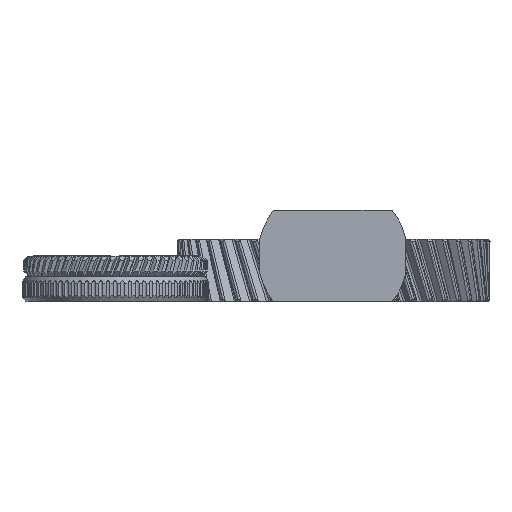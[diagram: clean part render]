
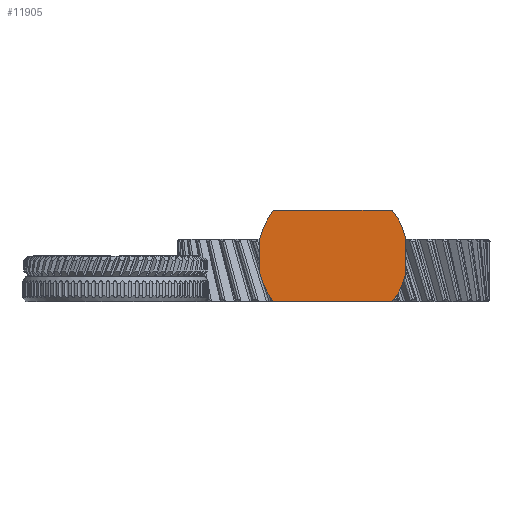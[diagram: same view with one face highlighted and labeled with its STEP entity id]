
A CAD part, front view. The second image highlights one B-rep face of the part: STEP entity #11905.
In plain terms, the highlighted planar face has unit normal (0, -1, 0) as drawn and (0, 1, 0) by its records, which use the part's own axes.
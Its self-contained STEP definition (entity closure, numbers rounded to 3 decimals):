
#356 = PLANE ( 'NONE',  #45575 ) ;
#2640 = CIRCLE ( 'NONE', #3563, 36. ) ;
#2894 = CARTESIAN_POINT ( 'NONE',  ( -35., 0., -44. ) ) ;
#3563 = AXIS2_PLACEMENT_3D ( 'NONE', #6148, #40393, #49240 ) ;
#3675 = VECTOR ( 'NONE', #14330, 1000. ) ;
#4471 = ORIENTED_EDGE ( 'NONE', *, *, #34214, .T. ) ;
#5156 = CARTESIAN_POINT ( 'NONE',  ( -35., 0., -44. ) ) ;
#5206 = EDGE_CURVE ( 'NONE', #10323, #51469, #28324, .T. ) ;
#6143 = DIRECTION ( 'NONE',  ( -1., 0., 0. ) ) ;
#6148 = CARTESIAN_POINT ( 'NONE',  ( 0., 0., -22. ) ) ;
#6778 = DIRECTION ( 'NONE',  ( 0., 1., 0. ) ) ;
#8582 = FACE_OUTER_BOUND ( 'NONE', #45183, .T. ) ;
#8700 = EDGE_CURVE ( 'NONE', #52037, #20500, #15087, .T. ) ;
#8755 = CARTESIAN_POINT ( 'NONE',  ( 35., 0., -13.574 ) ) ;
#10164 = DIRECTION ( 'NONE',  ( 0., 0., 1. ) ) ;
#10323 = VERTEX_POINT ( 'NONE', #37087 ) ;
#10745 = CIRCLE ( 'NONE', #41956, 36. ) ;
#11663 = LINE ( 'NONE', #2894, #54291 ) ;
#11905 = ADVANCED_FACE ( 'NONE', ( #8582 ), #356, .T. ) ;
#12224 = AXIS2_PLACEMENT_3D ( 'NONE', #32570, #37256, #29450 ) ;
#12419 = CARTESIAN_POINT ( 'NONE',  ( 28.496, 0., 0. ) ) ;
#12461 = VERTEX_POINT ( 'NONE', #32032 ) ;
#14330 = DIRECTION ( 'NONE',  ( 0., 0., 1. ) ) ;
#14341 = VECTOR ( 'NONE', #6143, 1000. ) ;
#15087 = CIRCLE ( 'NONE', #25842, 36. ) ;
#16171 = CARTESIAN_POINT ( 'NONE',  ( 0., 0., -22. ) ) ;
#16640 = EDGE_CURVE ( 'NONE', #22003, #20500, #44527, .T. ) ;
#18445 = ORIENTED_EDGE ( 'NONE', *, *, #16640, .F. ) ;
#18466 = LINE ( 'NONE', #35531, #3675 ) ;
#18584 = LINE ( 'NONE', #53134, #25797 ) ;
#18597 = CARTESIAN_POINT ( 'NONE',  ( -35., 0., 0. ) ) ;
#19013 = EDGE_CURVE ( 'NONE', #12461, #26813, #10745, .T. ) ;
#20176 = CARTESIAN_POINT ( 'NONE',  ( -35., 0., -13.574 ) ) ;
#20500 = VERTEX_POINT ( 'NONE', #22161 ) ;
#20826 = ORIENTED_EDGE ( 'NONE', *, *, #19013, .T. ) ;
#21680 = CARTESIAN_POINT ( 'NONE',  ( -35., 0., -30.426 ) ) ;
#22003 = VERTEX_POINT ( 'NONE', #12419 ) ;
#22161 = CARTESIAN_POINT ( 'NONE',  ( -28.496, 0., 0. ) ) ;
#25797 = VECTOR ( 'NONE', #10164, 1000. ) ;
#25842 = AXIS2_PLACEMENT_3D ( 'NONE', #52665, #6778, #45951 ) ;
#26813 = VERTEX_POINT ( 'NONE', #28325 ) ;
#28324 = CIRCLE ( 'NONE', #12224, 36. ) ;
#28325 = CARTESIAN_POINT ( 'NONE',  ( 28.496, 0., -44. ) ) ;
#29450 = DIRECTION ( 'NONE',  ( 0., 0., 1. ) ) ;
#32032 = CARTESIAN_POINT ( 'NONE',  ( 35., 0., -30.426 ) ) ;
#32570 = CARTESIAN_POINT ( 'NONE',  ( 0., 0., -22. ) ) ;
#33860 = ORIENTED_EDGE ( 'NONE', *, *, #8700, .T. ) ;
#34214 = EDGE_CURVE ( 'NONE', #51469, #52037, #18584, .T. ) ;
#35193 = DIRECTION ( 'NONE',  ( 0., 0., 1. ) ) ;
#35531 = CARTESIAN_POINT ( 'NONE',  ( 35., 0., -44. ) ) ;
#37087 = CARTESIAN_POINT ( 'NONE',  ( -28.496, 0., -44. ) ) ;
#37256 = DIRECTION ( 'NONE',  ( 0., 1., 0. ) ) ;
#38494 = DIRECTION ( 'NONE',  ( 0., 1., 0. ) ) ;
#39261 = EDGE_CURVE ( 'NONE', #12461, #47384, #18466, .T. ) ;
#40393 = DIRECTION ( 'NONE',  ( 0., 1., 0. ) ) ;
#41252 = ORIENTED_EDGE ( 'NONE', *, *, #39261, .F. ) ;
#41287 = DIRECTION ( 'NONE',  ( -1., 0., 0. ) ) ;
#41956 = AXIS2_PLACEMENT_3D ( 'NONE', #16171, #38494, #42933 ) ;
#42933 = DIRECTION ( 'NONE',  ( 0., 0., 1. ) ) ;
#44527 = LINE ( 'NONE', #18597, #14341 ) ;
#44820 = EDGE_CURVE ( 'NONE', #26813, #10323, #11663, .T. ) ;
#45183 = EDGE_LOOP ( 'NONE', ( #18445, #54871, #41252, #20826, #54586, #51869, #4471, #33860 ) ) ;
#45575 = AXIS2_PLACEMENT_3D ( 'NONE', #5156, #52160, #35193 ) ;
#45951 = DIRECTION ( 'NONE',  ( 0., 0., 1. ) ) ;
#47384 = VERTEX_POINT ( 'NONE', #8755 ) ;
#49240 = DIRECTION ( 'NONE',  ( 0., 0., 1. ) ) ;
#49687 = EDGE_CURVE ( 'NONE', #22003, #47384, #2640, .T. ) ;
#51469 = VERTEX_POINT ( 'NONE', #21680 ) ;
#51869 = ORIENTED_EDGE ( 'NONE', *, *, #5206, .T. ) ;
#52037 = VERTEX_POINT ( 'NONE', #20176 ) ;
#52160 = DIRECTION ( 'NONE',  ( 0., 1., 0. ) ) ;
#52665 = CARTESIAN_POINT ( 'NONE',  ( 0., 0., -22. ) ) ;
#53134 = CARTESIAN_POINT ( 'NONE',  ( -35., 0., -44. ) ) ;
#54291 = VECTOR ( 'NONE', #41287, 1000. ) ;
#54586 = ORIENTED_EDGE ( 'NONE', *, *, #44820, .T. ) ;
#54871 = ORIENTED_EDGE ( 'NONE', *, *, #49687, .T. ) ;
